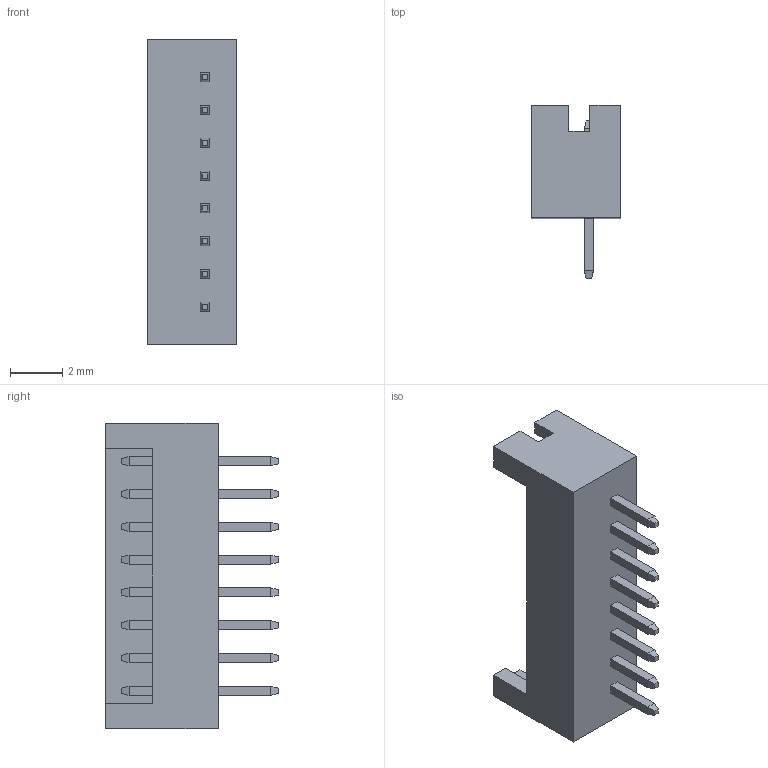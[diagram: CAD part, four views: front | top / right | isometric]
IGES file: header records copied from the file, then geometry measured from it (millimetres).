
Global section: file name: T:/3DWEB公開/NCW/DF13/DF13-P-DSA/DF13-8P-1.25DSA, ; native system: SolidDesigner 12.00  10-Sep-2003; preprocessor: OneSpace IGES_3D V1.0; author: Unknown; organization: Unknown; date: 20070323.082944; units: millimetre
Bounding box: 3.4 x 6.6 x 11.65 mm (x, y, z)
Volume: 87.5 mm3; surface area: 302.9 mm2
Topology: 1 solids, 1 shells, 166 faces, 380 edges, 232 vertices
Faces by surface type: bspline 166
